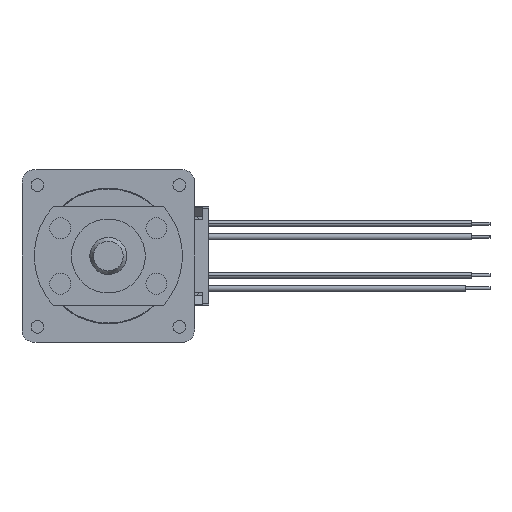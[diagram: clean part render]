
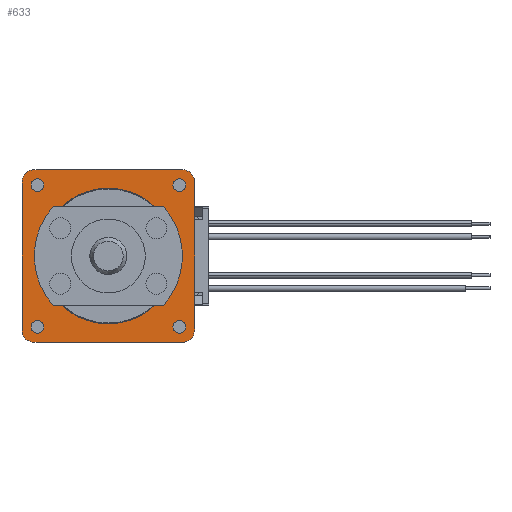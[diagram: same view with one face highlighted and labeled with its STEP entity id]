
A CAD part, left-side view. The second image highlights one B-rep face of the part: STEP entity #633.
In plain terms, the highlighted planar face has unit normal (-1, 0, 0).
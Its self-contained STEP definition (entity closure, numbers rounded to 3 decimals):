
#507=CARTESIAN_POINT('',(0.,-14.,-14.));
#508=DIRECTION('',(0.,-1.,0.));
#509=DIRECTION('',(-1.,0.,0.));
#510=AXIS2_PLACEMENT_3D('',#507,#509,#508);
#511=PLANE('',#510);
#512=CARTESIAN_POINT('',(0.,-28.,-25.7));
#513=VERTEX_POINT('',#512);
#514=CARTESIAN_POINT('',(0.,-28.,-2.3));
#515=VERTEX_POINT('',#514);
#516=CARTESIAN_POINT('',(0.,-28.,-25.7));
#517=DIRECTION('',(0.,0.,1.));
#518=VECTOR('',#517,23.4);
#519=LINE('',#516,#518);
#520=EDGE_CURVE('',#513,#515,#519,.T.);
#521=ORIENTED_EDGE('E52',*,*,#520,.T.);
#522=CARTESIAN_POINT('',(0.,-25.7,0.));
#523=VERTEX_POINT('',#522);
#524=CARTESIAN_POINT('',(0.,-28.,-2.3));
#525=CARTESIAN_POINT('',(0.,-28.,0.));
#526=CARTESIAN_POINT('',(0.,-25.7,0.));
#527=B_SPLINE_CURVE_WITH_KNOTS('',2,(#524,#525,#526),.UNSPECIFIED.,.F.,.U.,(3,3),(0.,1.),.UNSPECIFIED.);
#528=EDGE_CURVE('',#515,#523,#527,.T.);
#529=ORIENTED_EDGE('E53',*,*,#528,.T.);
#530=CARTESIAN_POINT('',(0.,-2.3,0.));
#531=VERTEX_POINT('',#530);
#532=CARTESIAN_POINT('',(0.,-25.7,0.));
#533=DIRECTION('',(0.,1.,0.));
#534=VECTOR('',#533,23.4);
#535=LINE('',#532,#534);
#536=EDGE_CURVE('',#523,#531,#535,.T.);
#537=ORIENTED_EDGE('E54',*,*,#536,.T.);
#538=CARTESIAN_POINT('',(0.,0.,-2.3));
#539=VERTEX_POINT('',#538);
#540=CARTESIAN_POINT('',(0.,-2.3,0.));
#541=CARTESIAN_POINT('',(0.,0.,0.));
#542=CARTESIAN_POINT('',(0.,0.,-2.3));
#543=B_SPLINE_CURVE_WITH_KNOTS('',2,(#540,#541,#542),.UNSPECIFIED.,.F.,.U.,(3,3),(0.,1.),.UNSPECIFIED.);
#544=EDGE_CURVE('',#531,#539,#543,.T.);
#545=ORIENTED_EDGE('E55',*,*,#544,.T.);
#546=CARTESIAN_POINT('',(0.,0.,-25.7));
#547=VERTEX_POINT('',#546);
#548=CARTESIAN_POINT('',(0.,0.,-2.3));
#549=DIRECTION('',(0.,0.,-1.));
#550=VECTOR('',#549,23.4);
#551=LINE('',#548,#550);
#552=EDGE_CURVE('',#539,#547,#551,.T.);
#553=ORIENTED_EDGE('E56',*,*,#552,.T.);
#554=CARTESIAN_POINT('',(0.,-2.3,-28.));
#555=VERTEX_POINT('',#554);
#556=CARTESIAN_POINT('',(0.,0.,-25.7));
#557=CARTESIAN_POINT('',(0.,0.,-28.));
#558=CARTESIAN_POINT('',(0.,-2.3,-28.));
#559=B_SPLINE_CURVE_WITH_KNOTS('',2,(#556,#557,#558),.UNSPECIFIED.,.F.,.U.,(3,3),(0.,1.),.UNSPECIFIED.);
#560=EDGE_CURVE('',#547,#555,#559,.T.);
#561=ORIENTED_EDGE('E57',*,*,#560,.T.);
#562=CARTESIAN_POINT('',(0.,-25.7,-28.));
#563=VERTEX_POINT('',#562);
#564=CARTESIAN_POINT('',(0.,-2.3,-28.));
#565=DIRECTION('',(0.,-1.,0.));
#566=VECTOR('',#565,23.4);
#567=LINE('',#564,#566);
#568=EDGE_CURVE('',#555,#563,#567,.T.);
#569=ORIENTED_EDGE('E58',*,*,#568,.T.);
#570=CARTESIAN_POINT('',(0.,-25.7,-28.));
#571=CARTESIAN_POINT('',(0.,-28.,-28.));
#572=CARTESIAN_POINT('',(0.,-28.,-25.7));
#573=B_SPLINE_CURVE_WITH_KNOTS('',2,(#570,#571,#572),.UNSPECIFIED.,.F.,.U.,(3,3),(0.,1.),.UNSPECIFIED.);
#574=EDGE_CURVE('',#563,#513,#573,.T.);
#575=ORIENTED_EDGE('E59',*,*,#574,.T.);
#576=EDGE_LOOP('',(#521,#529,#537,#545,#553,#561,#569,#575));
#577=FACE_OUTER_BOUND('',#576,.T.);
#578=CARTESIAN_POINT('',(0.,-1.475,-2.5));
#579=VERTEX_POINT('',#578);
#580=CARTESIAN_POINT('',(0.,-2.5,-2.5));
#581=DIRECTION('',(0.,1.,0.));
#582=DIRECTION('',(1.,0.,0.));
#583=AXIS2_PLACEMENT_3D('',#580,#582,#581);
#584=CIRCLE('',#583,1.025);
#585=EDGE_CURVE('',#579,#579,#584,.T.);
#586=ORIENTED_EDGE('E60',*,*,#585,.T.);
#587=EDGE_LOOP('',(#586));
#588=FACE_BOUND('',#587,.T.);
#589=CARTESIAN_POINT('',(0.,-1.475,-25.5));
#590=VERTEX_POINT('',#589);
#591=CARTESIAN_POINT('',(0.,-2.5,-25.5));
#592=DIRECTION('',(0.,1.,0.));
#593=DIRECTION('',(1.,0.,0.));
#594=AXIS2_PLACEMENT_3D('',#591,#593,#592);
#595=CIRCLE('',#594,1.025);
#596=EDGE_CURVE('',#590,#590,#595,.T.);
#597=ORIENTED_EDGE('E61',*,*,#596,.T.);
#598=EDGE_LOOP('',(#597));
#599=FACE_BOUND('',#598,.T.);
#600=CARTESIAN_POINT('',(0.,-24.475,-2.5));
#601=VERTEX_POINT('',#600);
#602=CARTESIAN_POINT('',(0.,-25.5,-2.5));
#603=DIRECTION('',(0.,1.,0.));
#604=DIRECTION('',(1.,0.,0.));
#605=AXIS2_PLACEMENT_3D('',#602,#604,#603);
#606=CIRCLE('',#605,1.025);
#607=EDGE_CURVE('',#601,#601,#606,.T.);
#608=ORIENTED_EDGE('E62',*,*,#607,.T.);
#609=EDGE_LOOP('',(#608));
#610=FACE_BOUND('',#609,.T.);
#611=CARTESIAN_POINT('',(0.,-24.475,-25.5));
#612=VERTEX_POINT('',#611);
#613=CARTESIAN_POINT('',(0.,-25.5,-25.5));
#614=DIRECTION('',(0.,1.,0.));
#615=DIRECTION('',(1.,0.,0.));
#616=AXIS2_PLACEMENT_3D('',#613,#615,#614);
#617=CIRCLE('',#616,1.025);
#618=EDGE_CURVE('',#612,#612,#617,.T.);
#619=ORIENTED_EDGE('E63',*,*,#618,.T.);
#620=EDGE_LOOP('',(#619));
#621=FACE_BOUND('',#620,.T.);
#622=CARTESIAN_POINT('',(0.,-25.,-14.));
#623=VERTEX_POINT('',#622);
#624=CARTESIAN_POINT('',(0.,-14.,-14.));
#625=DIRECTION('',(0.,-1.,0.));
#626=DIRECTION('',(1.,0.,0.));
#627=AXIS2_PLACEMENT_3D('',#624,#626,#625);
#628=CIRCLE('',#627,11.);
#629=EDGE_CURVE('',#623,#623,#628,.T.);
#630=ORIENTED_EDGE('E64',*,*,#629,.T.);
#631=EDGE_LOOP('',(#630));
#632=FACE_BOUND('',#631,.T.);
#633=ADVANCED_FACE('F11',(#577,#588,#599,#610,#621,#632),#511,.T.);
